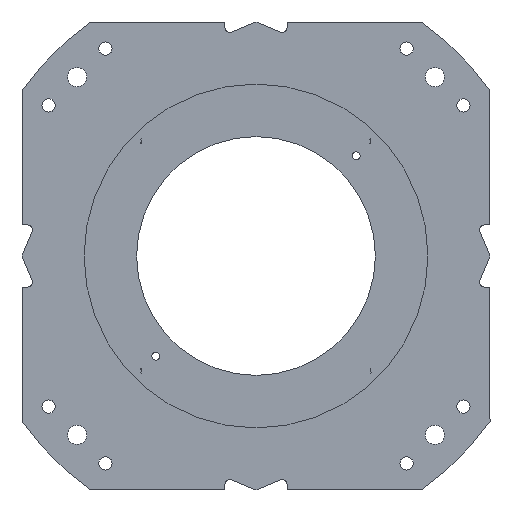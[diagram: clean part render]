
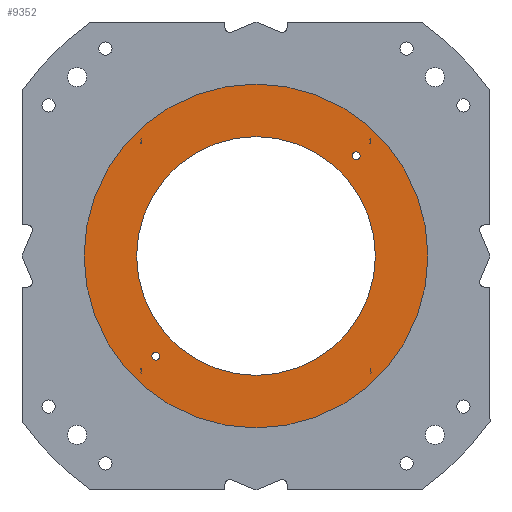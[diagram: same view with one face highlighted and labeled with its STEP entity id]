
A CAD part, front view. The second image highlights one B-rep face of the part: STEP entity #9352.
In plain terms, the highlighted planar face has unit normal (0, -1, 0).
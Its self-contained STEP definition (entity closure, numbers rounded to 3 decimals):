
#81 = DIRECTION ( 'NONE',  ( 0., -1., 0. ) ) ;
#109 = CARTESIAN_POINT ( 'NONE',  ( 105., 763., 109. ) ) ;
#203 = DIRECTION ( 'NONE',  ( 0., 0., -1. ) ) ;
#301 = FACE_BOUND ( 'NONE', #8354, .T. ) ;
#487 = DIRECTION ( 'NONE',  ( 0., -1., 0. ) ) ;
#521 = CARTESIAN_POINT ( 'NONE',  ( 0., 763., 125. ) ) ;
#565 = VERTEX_POINT ( 'NONE', #521 ) ;
#692 = EDGE_LOOP ( 'NONE', ( #8761, #10381 ) ) ;
#714 = EDGE_CURVE ( 'NONE', #8584, #9109, #7789, .T. ) ;
#732 = ORIENTED_EDGE ( 'NONE', *, *, #714, .F. ) ;
#789 = VERTEX_POINT ( 'NONE', #3126 ) ;
#882 = AXIS2_PLACEMENT_3D ( 'NONE', #2908, #4732, #1924 ) ;
#982 = VERTEX_POINT ( 'NONE', #5450 ) ;
#1147 = DIRECTION ( 'NONE',  ( 0., -1., 0. ) ) ;
#1162 = CARTESIAN_POINT ( 'NONE',  ( 0., 763., -125. ) ) ;
#1207 = CARTESIAN_POINT ( 'NONE',  ( 105., 763., 105. ) ) ;
#1320 = AXIS2_PLACEMENT_3D ( 'NONE', #2487, #9664, #3530 ) ;
#1417 = CARTESIAN_POINT ( 'NONE',  ( 0., 763., 0. ) ) ;
#1637 = VERTEX_POINT ( 'NONE', #4146 ) ;
#1833 = EDGE_CURVE ( 'NONE', #1637, #789, #11148, .T. ) ;
#1924 = DIRECTION ( 'NONE',  ( 0., 0., 1. ) ) ;
#2143 = DIRECTION ( 'NONE',  ( 0., -1., 0. ) ) ;
#2155 = CARTESIAN_POINT ( 'NONE',  ( 0., 763., 0. ) ) ;
#2487 = CARTESIAN_POINT ( 'NONE',  ( -105., 763., -105. ) ) ;
#2729 = ORIENTED_EDGE ( 'NONE', *, *, #6036, .F. ) ;
#2908 = CARTESIAN_POINT ( 'NONE',  ( 0., 763., 0. ) ) ;
#3126 = CARTESIAN_POINT ( 'NONE',  ( 0., 763., -180. ) ) ;
#3246 = EDGE_CURVE ( 'NONE', #6429, #982, #9302, .T. ) ;
#3530 = DIRECTION ( 'NONE',  ( 0., 0., -1. ) ) ;
#3898 = FACE_BOUND ( 'NONE', #692, .T. ) ;
#4055 = CIRCLE ( 'NONE', #6675, 125. ) ;
#4118 = DIRECTION ( 'NONE',  ( 0., 0., -1. ) ) ;
#4122 = AXIS2_PLACEMENT_3D ( 'NONE', #2155, #1147, #203 ) ;
#4142 = AXIS2_PLACEMENT_3D ( 'NONE', #1417, #2143, #4118 ) ;
#4146 = CARTESIAN_POINT ( 'NONE',  ( 0., 763., 180. ) ) ;
#4474 = CIRCLE ( 'NONE', #4666, 4. ) ;
#4626 = AXIS2_PLACEMENT_3D ( 'NONE', #7231, #81, #4658 ) ;
#4658 = DIRECTION ( 'NONE',  ( 0., 0., -1. ) ) ;
#4666 = AXIS2_PLACEMENT_3D ( 'NONE', #1207, #4790, #8335 ) ;
#4668 = FACE_OUTER_BOUND ( 'NONE', #9925, .T. ) ;
#4732 = DIRECTION ( 'NONE',  ( 0., 1., 0. ) ) ;
#4790 = DIRECTION ( 'NONE',  ( 0., -1., 0. ) ) ;
#5450 = CARTESIAN_POINT ( 'NONE',  ( -105., 763., -101. ) ) ;
#6008 = CARTESIAN_POINT ( 'NONE',  ( 0., 763., 0. ) ) ;
#6036 = EDGE_CURVE ( 'NONE', #9109, #8584, #4474, .T. ) ;
#6285 = CARTESIAN_POINT ( 'NONE',  ( 105., 763., 101. ) ) ;
#6353 = DIRECTION ( 'NONE',  ( 0., 0., 1. ) ) ;
#6364 = CIRCLE ( 'NONE', #1320, 4. ) ;
#6417 = EDGE_LOOP ( 'NONE', ( #10123, #9387 ) ) ;
#6429 = VERTEX_POINT ( 'NONE', #11250 ) ;
#6516 = DIRECTION ( 'NONE',  ( 0., 1., 0. ) ) ;
#6675 = AXIS2_PLACEMENT_3D ( 'NONE', #6008, #487, #9576 ) ;
#6689 = AXIS2_PLACEMENT_3D ( 'NONE', #10652, #11411, #7107 ) ;
#7107 = DIRECTION ( 'NONE',  ( 0., 0., -1. ) ) ;
#7175 = EDGE_CURVE ( 'NONE', #7994, #565, #10292, .T. ) ;
#7231 = CARTESIAN_POINT ( 'NONE',  ( 105., 763., 105. ) ) ;
#7293 = CARTESIAN_POINT ( 'NONE',  ( 0., 763., 0. ) ) ;
#7789 = CIRCLE ( 'NONE', #4626, 4. ) ;
#7994 = VERTEX_POINT ( 'NONE', #1162 ) ;
#8218 = PLANE ( 'NONE',  #4122 ) ;
#8221 = EDGE_CURVE ( 'NONE', #982, #6429, #6364, .T. ) ;
#8335 = DIRECTION ( 'NONE',  ( 0., 0., -1. ) ) ;
#8354 = EDGE_LOOP ( 'NONE', ( #2729, #732 ) ) ;
#8569 = EDGE_CURVE ( 'NONE', #789, #1637, #10625, .T. ) ;
#8580 = ORIENTED_EDGE ( 'NONE', *, *, #1833, .F. ) ;
#8584 = VERTEX_POINT ( 'NONE', #6285 ) ;
#8761 = ORIENTED_EDGE ( 'NONE', *, *, #8221, .F. ) ;
#9109 = VERTEX_POINT ( 'NONE', #109 ) ;
#9302 = CIRCLE ( 'NONE', #6689, 4. ) ;
#9352 = ADVANCED_FACE ( 'NONE', ( #301, #3898, #10096, #4668 ), #8218, .T. ) ;
#9387 = ORIENTED_EDGE ( 'NONE', *, *, #7175, .F. ) ;
#9576 = DIRECTION ( 'NONE',  ( 0., 0., -1. ) ) ;
#9664 = DIRECTION ( 'NONE',  ( 0., -1., 0. ) ) ;
#9925 = EDGE_LOOP ( 'NONE', ( #8580, #10477 ) ) ;
#10096 = FACE_BOUND ( 'NONE', #6417, .T. ) ;
#10123 = ORIENTED_EDGE ( 'NONE', *, *, #10793, .F. ) ;
#10292 = CIRCLE ( 'NONE', #4142, 125. ) ;
#10381 = ORIENTED_EDGE ( 'NONE', *, *, #3246, .F. ) ;
#10477 = ORIENTED_EDGE ( 'NONE', *, *, #8569, .F. ) ;
#10625 = CIRCLE ( 'NONE', #10660, 180. ) ;
#10652 = CARTESIAN_POINT ( 'NONE',  ( -105., 763., -105. ) ) ;
#10660 = AXIS2_PLACEMENT_3D ( 'NONE', #7293, #6516, #6353 ) ;
#10793 = EDGE_CURVE ( 'NONE', #565, #7994, #4055, .T. ) ;
#11148 = CIRCLE ( 'NONE', #882, 180. ) ;
#11250 = CARTESIAN_POINT ( 'NONE',  ( -105., 763., -109. ) ) ;
#11411 = DIRECTION ( 'NONE',  ( 0., -1., 0. ) ) ;
